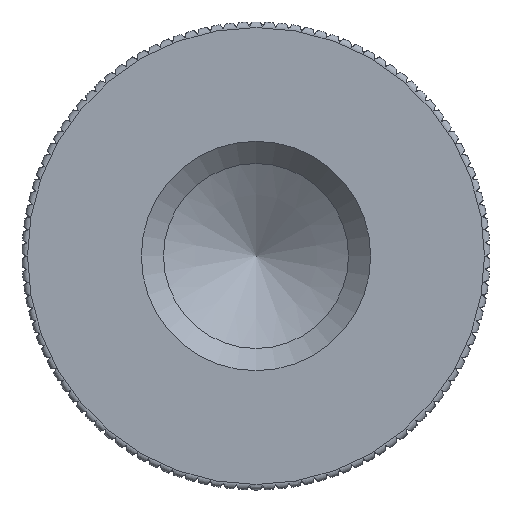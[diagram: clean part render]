
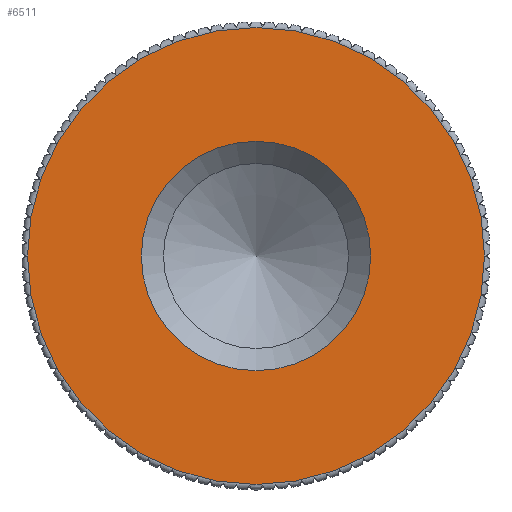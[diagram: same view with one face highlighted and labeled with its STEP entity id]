
A CAD part, front view. The second image highlights one B-rep face of the part: STEP entity #6511.
In plain terms, the highlighted planar face has unit normal (0, -1, 0).
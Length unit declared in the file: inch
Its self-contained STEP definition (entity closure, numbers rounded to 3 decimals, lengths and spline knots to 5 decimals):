
#19=FACE_BOUND('',#1483,.T.);
#686=PLANE('',#7104);
#1138=FACE_OUTER_BOUND('',#1482,.T.);
#1482=EDGE_LOOP('',(#6132,#6133));
#1483=EDGE_LOOP('',(#6134,#6135));
#2166=CIRCLE('',#6539,0.125);
#2167=CIRCLE('',#6540,0.125);
#2284=CIRCLE('',#6662,0.249);
#2397=CIRCLE('',#6775,0.249);
#2416=VERTEX_POINT('',#8660);
#2417=VERTEX_POINT('',#8661);
#2756=VERTEX_POINT('',#11348);
#2757=VERTEX_POINT('',#11349);
#3102=EDGE_CURVE('',#2416,#2417,#2166,.T.);
#3103=EDGE_CURVE('',#2417,#2416,#2167,.T.);
#3447=EDGE_CURVE('',#2756,#2757,#2284,.T.);
#3778=EDGE_CURVE('',#2757,#2756,#2397,.T.);
#6132=ORIENTED_EDGE('',*,*,#3447,.F.);
#6133=ORIENTED_EDGE('',*,*,#3778,.F.);
#6134=ORIENTED_EDGE('',*,*,#3102,.T.);
#6135=ORIENTED_EDGE('',*,*,#3103,.T.);
#6511=ADVANCED_FACE('',(#1138,#19),#686,.T.);
#6539=AXIS2_PLACEMENT_3D('',#8662,#7139,#7140);
#6540=AXIS2_PLACEMENT_3D('',#8663,#7141,#7142);
#6662=AXIS2_PLACEMENT_3D('',#11350,#7390,#7391);
#6775=AXIS2_PLACEMENT_3D('',#13971,#7616,#7617);
#7104=AXIS2_PLACEMENT_3D('',#14627,#8601,#8602);
#7139=DIRECTION('center_axis',(0.,1.,0.));
#7140=DIRECTION('ref_axis',(0.,0.,-1.));
#7141=DIRECTION('center_axis',(0.,1.,0.));
#7142=DIRECTION('ref_axis',(0.,0.,-1.));
#7390=DIRECTION('center_axis',(0.,1.,0.));
#7391=DIRECTION('ref_axis',(0.,0.,
1.));
#7616=DIRECTION('center_axis',(0.,1.,0.));
#7617=DIRECTION('ref_axis',(0.,0.,
1.));
#8601=DIRECTION('center_axis',(0.,-1.,0.));
#8602=DIRECTION('ref_axis',(0.,0.,-1.));
#8660=CARTESIAN_POINT('',(0.,0.,-0.125));
#8661=CARTESIAN_POINT('',(0.,0.,0.125));
#8662=CARTESIAN_POINT('Origin',(0.,0.,0.));
#8663=CARTESIAN_POINT('Origin',(0.,0.,0.));
#11348=CARTESIAN_POINT('',(0.,0.,-0.249));
#11349=CARTESIAN_POINT('',(0.,0.,0.249));
#11350=CARTESIAN_POINT('Origin',(0.,0.,0.));
#13971=CARTESIAN_POINT('Origin',(0.,0.,0.));
#14627=CARTESIAN_POINT('Origin',(0.,0.,0.));
